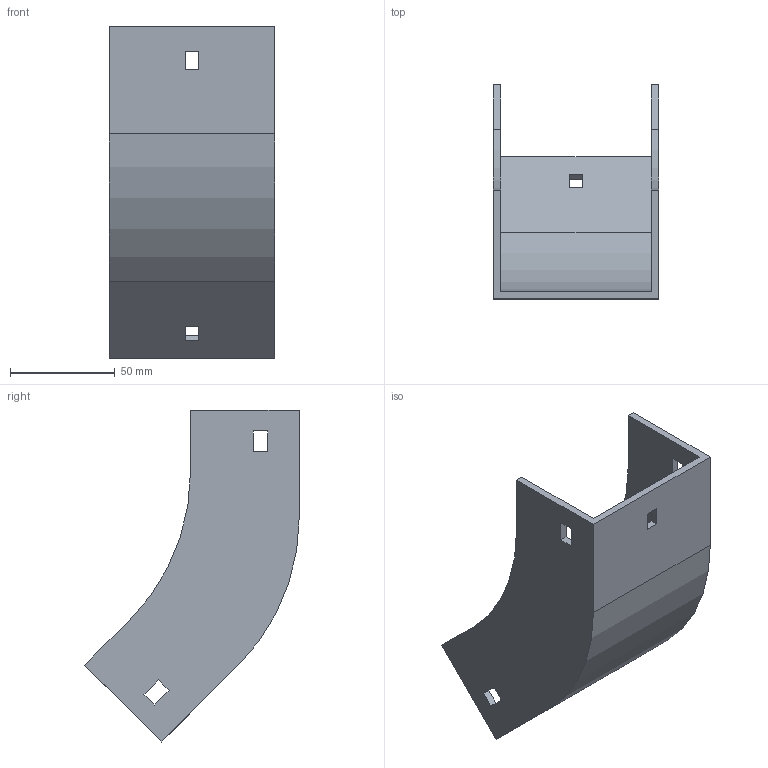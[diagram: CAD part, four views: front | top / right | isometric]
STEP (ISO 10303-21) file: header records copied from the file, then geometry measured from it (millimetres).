
FILE_DESCRIPTION (( 'STEP AP214' ), '1' );
FILE_NAME ('31F1B075.step', '2025-02-21T12:59:49', ( '' ), ( '' ), 'SwSTEP 2.0', 'SolidWorks 2023', '' );
FILE_SCHEMA (( 'AUTOMOTIVE_DESIGN' ));
Length unit declared in the file: millimetre
Products named in the file (1): 31F1B075
Bounding box: 79 x 102.5 x 158.69 mm (x, y, z)
Volume: 103866.9 mm3; surface area: 62256.9 mm2
Topology: 1 solids, 1 shells, 42 faces, 120 edges, 80 vertices
Faces by surface type: plane 38, cylinder 4
Entity records: 1399 total; most frequent: CARTESIAN_POINT 243, ORIENTED_EDGE 240, DIRECTION 214, EDGE_CURVE 120, VECTOR 112, LINE 112, VERTEX_POINT 80, EDGE_LOOP 54
